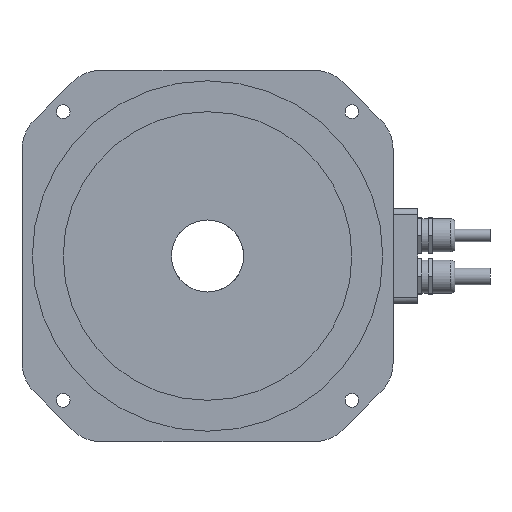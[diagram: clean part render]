
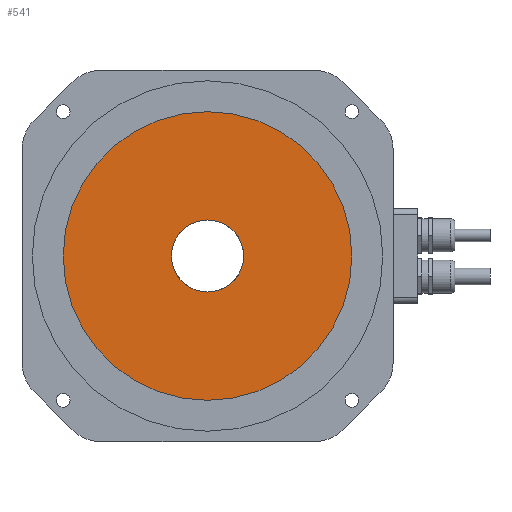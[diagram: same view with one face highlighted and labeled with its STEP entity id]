
A CAD part, front view. The second image highlights one B-rep face of the part: STEP entity #541.
In plain terms, the highlighted planar face has unit normal (0, -1, 0).
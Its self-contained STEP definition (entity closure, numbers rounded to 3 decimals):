
#541 = ADVANCED_FACE( '', ( #1350, #1351 ), #1352, .T. );
#1350 = FACE_OUTER_BOUND( '', #3051, .T. );
#1351 = FACE_BOUND( '', #3052, .T. );
#1352 = PLANE( '', #3053 );
#3051 = EDGE_LOOP( '', ( #6778 ) );
#3052 = EDGE_LOOP( '', ( #6779 ) );
#3053 = AXIS2_PLACEMENT_3D( '', #6780, #6781, #6782 );
#6778 = ORIENTED_EDGE( '', *, *, #8970, .F. );
#6779 = ORIENTED_EDGE( '', *, *, #8971, .T. );
#6780 = CARTESIAN_POINT( '', ( 0., -6., 0. ) );
#6781 = DIRECTION( '', ( 0., -1., 0. ) );
#6782 = DIRECTION( '', ( 0., 0., -1. ) );
#8970 = EDGE_CURVE( '', #10161, #10161, #10162, .T. );
#8971 = EDGE_CURVE( '', #10163, #10163, #10164, .T. );
#10161 = VERTEX_POINT( '', #12190 );
#10162 = CIRCLE( '', #12191, 70. );
#10163 = VERTEX_POINT( '', #12192 );
#10164 = CIRCLE( '', #12193, 17.5 );
#12190 = CARTESIAN_POINT( '', ( 70., -6., 0. ) );
#12191 = AXIS2_PLACEMENT_3D( '', #14086, #14087, #14088 );
#12192 = CARTESIAN_POINT( '', ( -17.5, -6., 0. ) );
#12193 = AXIS2_PLACEMENT_3D( '', #14089, #14090, #14091 );
#14086 = CARTESIAN_POINT( '', ( 0., -6., 0. ) );
#14087 = DIRECTION( '', ( 0., 1., 0. ) );
#14088 = DIRECTION( '', ( 1., 0., 0. ) );
#14089 = CARTESIAN_POINT( '', ( 0., -6., 0. ) );
#14090 = DIRECTION( '', ( 0., 1., 0. ) );
#14091 = DIRECTION( '', ( -1., 0., 0. ) );
